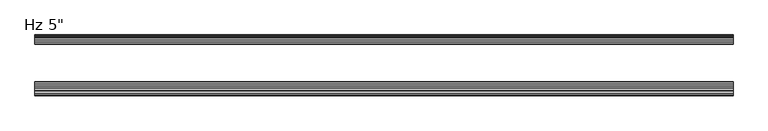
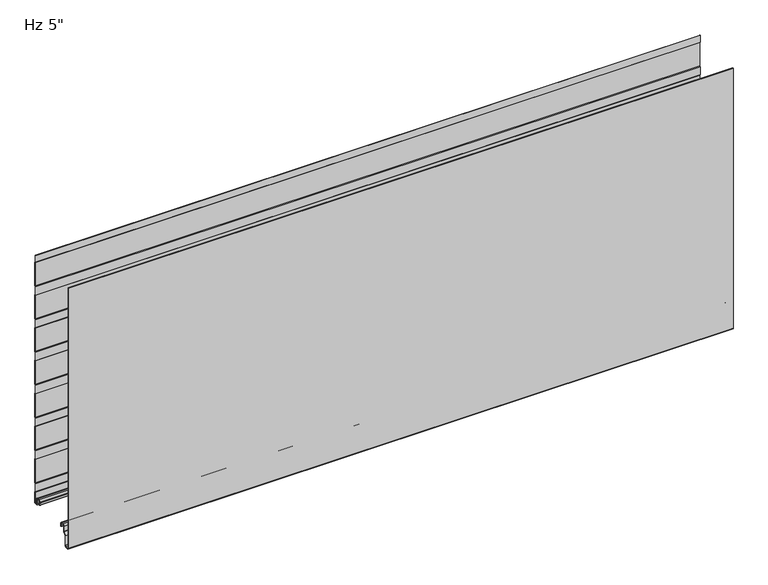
"""IFC4 building model written with IfcOpenShell, lengths in millimetres: plate geometry."""

from ifc_helpers import new_model, si_unit, point, frame, frame_2d, origin, place, context, project, spatial, polyline, circle_curve, trimmed, segment, composite_curve, outline, extrude, source, transform, mapped, element, save
from ifc_brep_helpers import plane_surface, cylinder_surface, revolved_surface, advanced_brep


def plate_da7b9e45(model_context):
    return source(origin(), model_context, "Body", "SolidModel", [
        extrude(outline(composite_curve([segment(trimmed(circle_curve(frame_2d((-123.4297491, -32.4521148)), 3.5702393), [point((-123.1184787, -36.0087592))], [point((-126.9999884, -32.4521125))], False, "CARTESIAN"), True, "CONTINUOUS"), segment(polyline([(-126.9999884, -32.4521125), (-126.9996024, 571.2), (-125.9993815, 571.2), (-125.9993815, -32.509446)]), True, "CONTINUOUS"), segment(trimmed(circle_curve(frame_2d((-123.4297816, -32.4521176)), 2.5702393), [point((-125.9993815, -32.509446))], [point((-123.205696, -35.0125699))], True, "CARTESIAN"), True, "CONTINUOUS"), segment(polyline([(-123.205696, -35.0125699), (-118.2238751, -34.5765709)]), True, "CONTINUOUS"), segment(trimmed(circle_curve(frame_2d((-118.7052657, -31.9198392)), 2.6999926), [point((-118.2238751, -34.5765709))], [point((-116.0052731, -31.9198392))], True, "CARTESIAN"), True, "CONTINUOUS"), segment(polyline([(-116.0052731, -31.9198392), (-116.0052731, -9.8247096), (-110.503202, -4.3226385)]), True, "CONTINUOUS"), segment(trimmed(circle_curve(frame_2d((-111.7052797, -3.1205608)), 1.6999946), [point((-110.503202, -4.3226385))], [point((-110.0052851, -3.1205608))], True, "CARTESIAN"), True, "CONTINUOUS"), segment(polyline([(-110.0052851, -3.1205608), (-110.0052851, 8.6903283)]), True, "CONTINUOUS"), segment(trimmed(circle_curve(frame_2d((-106.6552898, 8.6903283)), 3.3499953), [point((-110.0052851, 8.6903283))], [point((-106.6552898, 12.0403236))], False, "CARTESIAN"), True, "CONTINUOUS"), segment(polyline([(-106.6552898, 12.0403236), (-102.2552986, 12.0403236)]), True, "CONTINUOUS"), segment(trimmed(circle_curve(frame_2d((-102.2552986, 8.6903283)), 3.3499953), [point((-102.2552986, 12.0403236))], [point((-98.9053033, 8.6903283))], False, "CARTESIAN"), True, "CONTINUOUS"), segment(polyline([(-98.9053033, 8.6903283), (-98.9053033, 5.9912173), (-97.5068244, 5.9912173), (-97.5068244, 2.2328239)]), True, "CONTINUOUS"), segment(trimmed(circle_curve(frame_2d((-98.7068211, 2.2313092)), 1.1999976), [point((-97.5068244, 2.2328239))], [point((-98.6762992, 1.0316999))], False, "CARTESIAN"), True, "CONTINUOUS"), segment(trimmed(circle_curve(frame_2d((-98.7068211, 2.2313092)), 1.1999976), [point((-98.6762992, 1.0316999))], [point((-99.9053033, 2.1710221))], False, "CARTESIAN"), True, "CONTINUOUS"), segment(polyline([(-99.9053033, 2.1710221), (-99.9053033, 8.6903283)]), True, "CONTINUOUS"), segment(trimmed(circle_curve(frame_2d((-102.2552986, 8.6903283)), 2.3499953), [point((-99.9053033, 8.6903283))], [point((-102.2552986, 11.0403236))], True, "CARTESIAN"), True, "CONTINUOUS"), segment(polyline([(-102.2552986, 11.0403236), (-106.6552898, 11.0403236)]), True, "CONTINUOUS"), segment(trimmed(circle_curve(frame_2d((-106.6552898, 8.6903283)), 2.3499953), [point((-106.6552898, 11.0403236))], [point((-109.0052851, 8.6903283))], True, "CARTESIAN"), True, "CONTINUOUS"), segment(polyline([(-109.0052851, 8.6903283), (-109.0052851, -3.1205608)]), True, "CONTINUOUS"), segment(trimmed(circle_curve(frame_2d((-111.7052797, -3.1205608)), 2.6999946), [point((-109.0052851, -3.1205608))], [point((-109.7960952, -5.0297453))], False, "CARTESIAN"), True, "CONTINUOUS"), segment(polyline([(-109.7960952, -5.0297453), (-114.6245127, -9.8581627)]), True, "CONTINUOUS"), segment(trimmed(circle_curve(frame_2d((-113.7052757, -10.7773997)), 1.2999974), [point((-114.6245127, -9.8581627))], [point((-115.0052731, -10.7773997))], True, "CARTESIAN"), True, "CONTINUOUS"), segment(polyline([(-115.0052731, -10.7773997), (-115.0052731, -31.9198392)]), True, "CONTINUOUS"), segment(trimmed(circle_curve(frame_2d((-118.7052657, -31.9198392)), 3.6999926), [point((-115.0052731, -31.9198392))], [point((-118.0944646, -35.5690675))], False, "CARTESIAN"), True, "CONTINUOUS"), segment(polyline([(-118.0944646, -35.5690675), (-123.1184787, -36.0087592)]), True, "CONTINUOUS")], self_intersect=False)), frame((-730.0, 0.0, 0.0), z_axis=(1.0, 0.0, 0.0), x_axis=(0.0, 1.0, 0.0)), (0.0, 0.0, 1.0), 1460.0),
        advanced_brep(
        [(-730.0, -17.0015368, 2.0313088), (-730.0, -18.00154, 1.0313116), (-730.0, -19.0015314, 2.0313088), (-730.0, -19.0015314, 6.0315125), (-730.0, -18.0015368, 6.0315125), (-730.0, -18.0015368, 8.7237223), (-730.0, -14.7015411, 12.023718), (-730.0, -10.3015499, 12.023718), (-730.0, -7.0015544, 8.7237225), (-730.0, -7.0015544, -1.6962564), (-730.0, -5.2315602, -3.4662506), (-730.0, -1.0000126, -3.4662506), (-730.0, -1.0000126, 21.034026), (-730.0, -2.2002516, 22.4196686), (-730.0, -2.2002516, 41.7948349), (-730.0, -1.0000209, 43.1804679), (-730.0, -1.0000209, 97.2338833), (-730.0, -2.2002516, 98.6195162), (-730.0, -2.2002516, 117.9946825), (-730.0, -1.0000209, 119.3803155), (-730.0, -1.0000209, 173.4337309), (-730.0, -2.2002516, 174.8193638), (-730.0, -2.2002516, 194.1945301), (-730.0, -1.0000209, 195.5801631), (-730.0, -1.0000209, 249.6335785), (-730.0, -2.2002516, 251.0192114), (-730.0, -2.2002516, 270.3943777), (-730.0, -1.0000209, 271.7800107), (-730.0, -1.0000209, 325.8334261), (-730.0, -2.2002516, 327.219059), (-730.0, -2.2002516, 346.5942253), (-730.0, -1.0000209, 347.9798583), (-730.0, -1.0000209, 402.0332737), (-730.0, -2.2002516, 403.4189066), (-730.0, -2.2002516, 422.7940729), (-730.0, -1.0000209, 424.1797059), (-730.0, -1.0000209, 478.2331213), (-730.0, -2.2002516, 479.6187542), (-730.0, -2.2002516, 498.9939205), (-730.0, -1.0000209, 500.3795535), (-730.0, -1.0000209, 554.4329689), (-730.0, -2.2002516, 555.8186018), (-730.0, -2.2002516, 571.2), (-730.0, -1.2002516, 571.2), (-730.0, -1.2002516, 556.1914823), (-730.0, -0.3418094, 555.2004346), (-730.0, -2.09e-05, 554.2838177), (-730.0, -2.09e-05, 500.5287046), (-730.0, -0.3418094, 499.6120877), (-730.0, -1.2002516, 498.6210401), (-730.0, -1.2002516, 479.9916347), (-730.0, -0.3418094, 479.000587), (-730.0, -2.09e-05, 478.0839701), (-730.0, -2.09e-05, 424.328857), (-730.0, -0.3418094, 423.4122401), (-730.0, -1.2002516, 422.4211925), (-730.0, -1.2002516, 403.7917871), (-730.0, -0.3418094, 402.8007394), (-730.0, -2.09e-05, 401.8841225), (-730.0, -2.09e-05, 348.1290094), (-730.0, -0.3418094, 347.2123925), (-730.0, -1.2002516, 346.2213449), (-730.0, -1.2002516, 327.5919395), (-730.0, -0.3418094, 326.6008918), (-730.0, -2.09e-05, 325.6842749), (-730.0, -2.09e-05, 271.9291618), (-730.0, -0.3418094, 271.0125449), (-730.0, -1.2002516, 270.0214973), (-730.0, -1.2002516, 251.3920919), (-730.0, -0.3418094, 250.4010442), (-730.0, -2.09e-05, 249.4844273), (-730.0, -2.09e-05, 195.7293142), (-730.0, -0.3418094, 194.8126973), (-730.0, -1.2002516, 193.8216497), (-730.0, -1.2002516, 175.1922443), (-730.0, -0.3418094, 174.2011966), (-730.0, -2.09e-05, 173.2845797), (-730.0, -2.09e-05, 119.5294666), (-730.0, -0.3418094, 118.6128497), (-730.0, -1.2002516, 117.6218021), (-730.0, -1.2002516, 98.9923967), (-730.0, -0.3418094, 98.001349), (-730.0, -2.09e-05, 97.0847321), (-730.0, -2.09e-05, 43.329619), (-730.0, -0.3418094, 42.4130021), (-730.0, -1.2002516, 41.4219545), (-730.0, -1.2002516, 22.7925491), (-730.0, -0.3418094, 21.8015014), (-730.0, -2.09e-05, 20.8847931), (-730.0, -1.26e-05, -3.0662545), (-730.0, -1.4000087, -4.4662506), (-730.0, -5.2315602, -4.4662506), (-730.0, -8.0015544, -1.6962564), (-730.0, -8.0015544, 8.7237225), (-730.0, -10.3015499, 11.023718), (-730.0, -14.7015411, 11.023718), (-730.0, -17.0015368, 8.7237223), (730.0, -17.0015368, 2.0313088), (730.0, -17.0015368, 8.7237223), (730.0, -14.7015411, 11.023718), (730.0, -10.3015499, 11.023718), (730.0, -8.0015544, 8.7237225), (730.0, -8.0015544, -1.6962564), (730.0, -5.2315602, -4.4662506), (730.0, -1.4000087, -4.4662506), (730.0, -1.26e-05, -3.0662545), (730.0, -1.26e-05, 20.8848845), (730.0, -0.3418094, 21.8015014), (730.0, -1.2002516, 22.7925491), (730.0, -1.2002516, 41.4219545), (730.0, -0.3418094, 42.4130021), (730.0, -2.09e-05, 43.329619), (730.0, -2.09e-05, 97.0847321), (730.0, -0.3418094, 98.001349), (730.0, -1.2002516, 98.9923967), (730.0, -1.2002516, 117.6218021), (730.0, -0.3418094, 118.6128497), (730.0, -2.09e-05, 119.5294666), (730.0, -2.09e-05, 173.2845797), (730.0, -0.3418094, 174.2011966), (730.0, -1.2002516, 175.1922443), (730.0, -1.2002516, 193.8216497), (730.0, -0.3418094, 194.8126973), (730.0, -2.09e-05, 195.7293142), (730.0, -2.09e-05, 249.4844273), (730.0, -0.3418094, 250.4010442), (730.0, -1.2002516, 251.3920919), (730.0, -1.2002516, 270.0214973), (730.0, -0.3418094, 271.0125449), (730.0, -2.09e-05, 271.9291618), (730.0, -2.09e-05, 325.6842749), (730.0, -0.3418094, 326.6008918), (730.0, -1.2002516, 327.5919395), (730.0, -1.2002516, 346.2213449), (730.0, -0.3418094, 347.2123925), (730.0, -2.09e-05, 348.1290094), (730.0, -2.09e-05, 401.8841225), (730.0, -0.3418094, 402.8007394), (730.0, -1.2002516, 403.7917871), (730.0, -1.2002516, 422.4211925), (730.0, -0.3418094, 423.4122401), (730.0, -2.09e-05, 424.328857), (730.0, -2.09e-05, 478.0839701), (730.0, -0.3418094, 479.000587), (730.0, -1.2002516, 479.9916347), (730.0, -1.2002516, 498.6210401), (730.0, -0.3418094, 499.6120877), (730.0, -2.09e-05, 500.5287046), (730.0, -2.09e-05, 554.2838177), (730.0, -0.3418094, 555.2004346), (730.0, -1.2002516, 556.1914823), (730.0, -1.2002516, 571.2), (730.0, -2.2002516, 571.2), (730.0, -2.2002516, 555.8186018), (730.0, -1.0000209, 554.4329689), (730.0, -1.0000209, 500.3795535), (730.0, -2.2002516, 498.9939205), (730.0, -2.2002516, 479.6187542), (730.0, -1.0000209, 478.2331213), (730.0, -1.0000209, 424.1797059), (730.0, -2.2002516, 422.7940729), (730.0, -2.2002516, 403.4189066), (730.0, -1.0000209, 402.0332737), (730.0, -1.0000209, 347.9798583), (730.0, -2.2002516, 346.5942253), (730.0, -2.2002516, 327.219059), (730.0, -1.0000209, 325.8334261), (730.0, -1.0000209, 271.7800107), (730.0, -2.2002516, 270.3943777), (730.0, -2.2002516, 251.0192114), (730.0, -1.0000209, 249.6335785), (730.0, -1.0000209, 195.5801631), (730.0, -2.2002516, 194.1945301), (730.0, -2.2002516, 174.8193638), (730.0, -1.0000209, 173.4337309), (730.0, -1.0000209, 119.3803155), (730.0, -2.2002516, 117.9946825), (730.0, -2.2002516, 98.6195162), (730.0, -1.0000209, 97.2338833), (730.0, -1.0000209, 43.1804679), (730.0, -2.2002516, 41.7948349), (730.0, -2.2002516, 22.4196686), (730.0, -1.0000126, 21.034026), (730.0, -1.0000126, -3.4662506), (730.0, -5.2315602, -3.4662506), (730.0, -7.0015544, -1.6962564), (730.0, -7.0015544, 8.7237225), (730.0, -10.3015499, 12.023718), (730.0, -14.7015411, 12.023718), (730.0, -18.0015368, 8.7237223), (730.0, -18.0015368, 6.0315125), (730.0, -19.0015314, 6.0315125), (730.0, -19.0015314, 2.0313088), (730.0, -18.0015401, 1.0313116)],
        [
            (0, 1, circle_curve(frame((-730.0, -18.0015341, 2.0313088), z_axis=(-1.0, 0.0, 0.0), x_axis=(0.0, 0.0, 1.0)), 0.9999973)),
            (1, 2, circle_curve(frame((-730.0, -18.0015342, 2.0313088), z_axis=(-1.0, 0.0, 0.0), x_axis=(0.0, 0.0, 1.0)), 0.9999972)),
            (2, 3),
            (3, 4),
            (4, 5),
            (5, 6, circle_curve(frame((-730.0, -14.7015411, 8.7237223), z_axis=(-1.0, 0.0, 0.0), x_axis=(0.0, 0.0, 1.0)), 3.2999957)),
            (6, 7),
            (7, 8, circle_curve(frame((-730.0, -10.3015499, 8.7237225), z_axis=(-1.0, 0.0, 0.0), x_axis=(0.0, 0.0, 1.0)), 3.2999955)),
            (8, 9),
            (9, 10, circle_curve(frame((-730.0, -5.2315602, -1.6962564), z_axis=(1.0, 0.0, 0.0), x_axis=(0.0, 0.0, 1.0)), 1.7699942)),
            (10, 11),
            (11, 12),
            (12, 13),
            (13, 14),
            (14, 15),
            (15, 16),
            (16, 17),
            (17, 18),
            (18, 19),
            (19, 20),
            (20, 21),
            (21, 22),
            (22, 23),
            (23, 24),
            (24, 25),
            (25, 26),
            (26, 27),
            (27, 28),
            (28, 29),
            (29, 30),
            (30, 31),
            (31, 32),
            (32, 33),
            (33, 34),
            (34, 35),
            (35, 36),
            (36, 37),
            (37, 38),
            (38, 39),
            (39, 40),
            (40, 41),
            (41, 42),
            (42, 43),
            (43, 44),
            (44, 45),
            (45, 46, circle_curve(frame((-730.0, -1.4000181, 554.2838177), z_axis=(-1.0, 0.0, 0.0), x_axis=(0.0, 0.0, 1.0)), 1.3999972)),
            (46, 47),
            (47, 48, circle_curve(frame((-730.0, -1.4000181, 500.5287046), z_axis=(-1.0, 0.0, 0.0), x_axis=(0.0, 0.0, 1.0)), 1.3999972)),
            (48, 49),
            (49, 50),
            (50, 51),
            (51, 52, circle_curve(frame((-730.0, -1.4000181, 478.0839701), z_axis=(-1.0, 0.0, 0.0), x_axis=(0.0, 0.0, 1.0)), 1.3999972)),
            (52, 53),
            (53, 54, circle_curve(frame((-730.0, -1.4000181, 424.328857), z_axis=(-1.0, 0.0, 0.0), x_axis=(0.0, 0.0, 1.0)), 1.3999972)),
            (54, 55),
            (55, 56),
            (56, 57),
            (57, 58, circle_curve(frame((-730.0, -1.4000181, 401.8841225), z_axis=(-1.0, 0.0, 0.0), x_axis=(0.0, 0.0, 1.0)), 1.3999972)),
            (58, 59),
            (59, 60, circle_curve(frame((-730.0, -1.4000181, 348.1290094), z_axis=(-1.0, 0.0, 0.0), x_axis=(0.0, 0.0, 1.0)), 1.3999972)),
            (60, 61),
            (61, 62),
            (62, 63),
            (63, 64, circle_curve(frame((-730.0, -1.4000181, 325.6842749), z_axis=(-1.0, 0.0, 0.0), x_axis=(0.0, 0.0, 1.0)), 1.3999972)),
            (64, 65),
            (65, 66, circle_curve(frame((-730.0, -1.4000181, 271.9291618), z_axis=(-1.0, 0.0, 0.0), x_axis=(0.0, 0.0, 1.0)), 1.3999972)),
            (66, 67),
            (67, 68),
            (68, 69),
            (69, 70, circle_curve(frame((-730.0, -1.4000181, 249.4844273), z_axis=(-1.0, 0.0, 0.0), x_axis=(0.0, 0.0, 1.0)), 1.3999972)),
            (70, 71),
            (71, 72, circle_curve(frame((-730.0, -1.4000181, 195.7293142), z_axis=(-1.0, 0.0, 0.0), x_axis=(0.0, 0.0, 1.0)), 1.3999972)),
            (72, 73),
            (73, 74),
            (74, 75),
            (75, 76, circle_curve(frame((-730.0, -1.4000181, 173.2845797), z_axis=(-1.0, 0.0, 0.0), x_axis=(0.0, 0.0, 1.0)), 1.3999972)),
            (76, 77),
            (77, 78, circle_curve(frame((-730.0, -1.4000181, 119.5294666), z_axis=(-1.0, 0.0, 0.0), x_axis=(0.0, 0.0, 1.0)), 1.3999972)),
            (78, 79),
            (79, 80),
            (80, 81),
            (81, 82, circle_curve(frame((-730.0, -1.4000181, 97.0847321), z_axis=(-1.0, 0.0, 0.0), x_axis=(0.0, 0.0, 1.0)), 1.3999972)),
            (82, 83),
            (83, 84, circle_curve(frame((-730.0, -1.4000181, 43.329619), z_axis=(-1.0, 0.0, 0.0), x_axis=(0.0, 0.0, 1.0)), 1.3999972)),
            (84, 85),
            (85, 86),
            (86, 87),
            (87, 88, circle_curve(frame((-730.0, -1.4000181, 20.8848845), z_axis=(-1.0, 0.0, 0.0), x_axis=(0.0, 0.0, 1.0)), 1.3999972)),
            (88, 89),
            (89, 90, circle_curve(frame((-730.0, -1.4000087, -3.0662545), z_axis=(-1.0, 0.0, 0.0), x_axis=(0.0, 0.0, 1.0)), 1.3999962)),
            (90, 91),
            (91, 92, circle_curve(frame((-730.0, -5.2315602, -1.6962564), z_axis=(-1.0, 0.0, 0.0), x_axis=(0.0, 0.0, 1.0)), 2.7699942)),
            (92, 93),
            (93, 94, circle_curve(frame((-730.0, -10.3015499, 8.7237225), z_axis=(1.0, 0.0, 0.0), x_axis=(0.0, 0.0, 1.0)), 2.2999955)),
            (94, 95),
            (95, 96, circle_curve(frame((-730.0, -14.7015411, 8.7237223), z_axis=(1.0, 0.0, 0.0), x_axis=(0.0, 0.0, 1.0)), 2.2999957)),
            (96, 0),
            (97, 98),
            (98, 99, circle_curve(frame((730.0, -14.7015411, 8.7237223), z_axis=(-1.0, 0.0, 0.0), x_axis=(0.0, 0.0, 1.0)), 2.2999957)),
            (99, 100),
            (100, 101, circle_curve(frame((730.0, -10.3015499, 8.7237225), z_axis=(-1.0, 0.0, 0.0), x_axis=(0.0, 0.0, 1.0)), 2.2999955)),
            (101, 102),
            (102, 103, circle_curve(frame((730.0, -5.2315602, -1.6962564), z_axis=(1.0, 0.0, 0.0), x_axis=(0.0, 0.0, 1.0)), 2.7699942)),
            (103, 104),
            (104, 105, circle_curve(frame((730.0, -1.4000087, -3.0662545), z_axis=(1.0, 0.0, 0.0), x_axis=(0.0, 0.0, 1.0)), 1.3999962)),
            (105, 106),
            (106, 107, circle_curve(frame((730.0, -1.4000181, 20.8848845), z_axis=(1.0, 0.0, 0.0), x_axis=(0.0, 0.0, 1.0)), 1.3999972)),
            (107, 108),
            (108, 109),
            (109, 110),
            (110, 111, circle_curve(frame((730.0, -1.4000181, 43.329619), z_axis=(1.0, 0.0, 0.0), x_axis=(0.0, 0.0, 1.0)), 1.3999972)),
            (111, 112),
            (112, 113, circle_curve(frame((730.0, -1.4000181, 97.0847321), z_axis=(1.0, 0.0, 0.0), x_axis=(0.0, 0.0, 1.0)), 1.3999972)),
            (113, 114),
            (114, 115),
            (115, 116),
            (116, 117, circle_curve(frame((730.0, -1.4000181, 119.5294666), z_axis=(1.0, 0.0, 0.0), x_axis=(0.0, 0.0, 1.0)), 1.3999972)),
            (117, 118),
            (118, 119, circle_curve(frame((730.0, -1.4000181, 173.2845797), z_axis=(1.0, 0.0, 0.0), x_axis=(0.0, 0.0, 1.0)), 1.3999972)),
            (119, 120),
            (120, 121),
            (121, 122),
            (122, 123, circle_curve(frame((730.0, -1.4000181, 195.7293142), z_axis=(1.0, 0.0, 0.0), x_axis=(0.0, 0.0, 1.0)), 1.3999972)),
            (123, 124),
            (124, 125, circle_curve(frame((730.0, -1.4000181, 249.4844273), z_axis=(1.0, 0.0, 0.0), x_axis=(0.0, 0.0, 1.0)), 1.3999972)),
            (125, 126),
            (126, 127),
            (127, 128),
            (128, 129, circle_curve(frame((730.0, -1.4000181, 271.9291618), z_axis=(1.0, 0.0, 0.0), x_axis=(0.0, 0.0, 1.0)), 1.3999972)),
            (129, 130),
            (130, 131, circle_curve(frame((730.0, -1.4000181, 325.6842749), z_axis=(1.0, 0.0, 0.0), x_axis=(0.0, 0.0, 1.0)), 1.3999972)),
            (131, 132),
            (132, 133),
            (133, 134),
            (134, 135, circle_curve(frame((730.0, -1.4000181, 348.1290094), z_axis=(1.0, 0.0, 0.0), x_axis=(0.0, 0.0, 1.0)), 1.3999972)),
            (135, 136),
            (136, 137, circle_curve(frame((730.0, -1.4000181, 401.8841225), z_axis=(1.0, 0.0, 0.0), x_axis=(0.0, 0.0, 1.0)), 1.3999972)),
            (137, 138),
            (138, 139),
            (139, 140),
            (140, 141, circle_curve(frame((730.0, -1.4000181, 424.328857), z_axis=(1.0, 0.0, 0.0), x_axis=(0.0, 0.0, 1.0)), 1.3999972)),
            (141, 142),
            (142, 143, circle_curve(frame((730.0, -1.4000181, 478.0839701), z_axis=(1.0, 0.0, 0.0), x_axis=(0.0, 0.0, 1.0)), 1.3999972)),
            (143, 144),
            (144, 145),
            (145, 146),
            (146, 147, circle_curve(frame((730.0, -1.4000181, 500.5287046), z_axis=(1.0, 0.0, 0.0), x_axis=(0.0, 0.0, 1.0)), 1.3999972)),
            (147, 148),
            (148, 149, circle_curve(frame((730.0, -1.4000181, 554.2838177), z_axis=(1.0, 0.0, 0.0), x_axis=(0.0, 0.0, 1.0)), 1.3999972)),
            (149, 150),
            (150, 151),
            (151, 152),
            (152, 153),
            (153, 154),
            (154, 155),
            (155, 156),
            (156, 157),
            (157, 158),
            (158, 159),
            (159, 160),
            (160, 161),
            (161, 162),
            (162, 163),
            (163, 164),
            (164, 165),
            (165, 166),
            (166, 167),
            (167, 168),
            (168, 169),
            (169, 170),
            (170, 171),
            (171, 172),
            (172, 173),
            (173, 174),
            (174, 175),
            (175, 176),
            (176, 177),
            (177, 178),
            (178, 179),
            (179, 180),
            (180, 181),
            (181, 182),
            (182, 183),
            (183, 184),
            (184, 185, circle_curve(frame((730.0, -5.2315602, -1.6962564), z_axis=(-1.0, 0.0, 0.0), x_axis=(0.0, 0.0, 1.0)), 1.7699942)),
            (185, 186),
            (186, 187, circle_curve(frame((730.0, -10.3015499, 8.7237225), z_axis=(1.0, 0.0, 0.0), x_axis=(0.0, 0.0, 1.0)), 3.2999955)),
            (187, 188),
            (188, 189, circle_curve(frame((730.0, -14.7015411, 8.7237223), z_axis=(1.0, 0.0, 0.0), x_axis=(0.0, 0.0, 1.0)), 3.2999957)),
            (189, 190),
            (190, 191),
            (191, 192),
            (192, 193, circle_curve(frame((730.0, -18.0015342, 2.0313088), z_axis=(1.0, 0.0, 0.0), x_axis=(0.0, 0.0, 1.0)), 0.9999972)),
            (193, 97, circle_curve(frame((730.0, -18.0015341, 2.0313088), z_axis=(1.0, 0.0, 0.0), x_axis=(0.0, 0.0, 1.0)), 0.9999973)),
            (42, 152),
            (151, 43),
            (96, 98),
            (97, 0),
            (95, 99),
            (94, 100),
            (93, 101),
            (92, 102),
            (91, 103),
            (90, 104),
            (89, 105),
            (88, 106),
            (87, 107),
            (86, 108),
            (85, 109),
            (84, 110),
            (83, 111),
            (82, 112),
            (81, 113),
            (80, 114),
            (79, 115),
            (78, 116),
            (77, 117),
            (76, 118),
            (75, 119),
            (74, 120),
            (73, 121),
            (72, 122),
            (71, 123),
            (70, 124),
            (69, 125),
            (68, 126),
            (67, 127),
            (66, 128),
            (65, 129),
            (64, 130),
            (63, 131),
            (62, 132),
            (61, 133),
            (60, 134),
            (59, 135),
            (58, 136),
            (57, 137),
            (56, 138),
            (55, 139),
            (54, 140),
            (53, 141),
            (52, 142),
            (51, 143),
            (50, 144),
            (49, 145),
            (48, 146),
            (47, 147),
            (46, 148),
            (45, 149),
            (44, 150),
            (41, 153),
            (40, 154),
            (39, 155),
            (38, 156),
            (37, 157),
            (36, 158),
            (35, 159),
            (34, 160),
            (33, 161),
            (32, 162),
            (31, 163),
            (30, 164),
            (29, 165),
            (28, 166),
            (27, 167),
            (26, 168),
            (25, 169),
            (24, 170),
            (23, 171),
            (22, 172),
            (21, 173),
            (20, 174),
            (19, 175),
            (18, 176),
            (17, 177),
            (16, 178),
            (15, 179),
            (14, 180),
            (13, 181),
            (12, 182),
            (11, 183),
            (10, 184),
            (9, 185),
            (8, 186),
            (7, 187),
            (6, 188),
            (5, 189),
            (4, 190),
            (3, 191),
            (2, 192),
            (1, 193),
        ],
        [
            plane_surface(frame((-730.0, -2.09e-05, 457.2), z_axis=(-1.0, 0.0, 0.0), x_axis=(0.0, 1.0, 0.0))),
            plane_surface(frame((730.0, -2.09e-05, 457.2), z_axis=(1.0, 0.0, 0.0), x_axis=(0.0, 1.0, 0.0))),
            plane_surface(frame((730.0, 9.9999791, 571.2), z_axis=(0.0, 0.0, 1.0), x_axis=(-1.0, 0.0, 0.0))),
            plane_surface(frame((-730.0, -17.0015368, 2.0313088), z_axis=(0.0, 1.0, 0.0), x_axis=(1.0, 0.0, 0.0))),
            revolved_surface(polyline([(730.0, -14.7015411, 11.023718), (-730.0, -14.7015411, 11.023718)]), (-730.0, -14.7015411, 8.7237223), (1.0, 0.0, 0.0)),
            plane_surface(frame((-730.0, -14.7015411, 11.023718), z_axis=(0.0, 0.0, -1.0), x_axis=(1.0, 0.0, 0.0))),
            revolved_surface(polyline([(730.0, -10.3015499, 11.023717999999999), (-730.0, -10.3015499, 11.023717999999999)]), (-730.0, -10.3015499, 8.7237225), (1.0, 0.0, 0.0)),
            plane_surface(frame((-730.0, -8.0015544, 8.7237225), z_axis=(0.0, -1.0, 0.0), x_axis=(1.0, 0.0, 0.0))),
            cylinder_surface(frame((-730.0, -5.2315602, -1.6962564), z_axis=(-1.0, 0.0, 0.0), x_axis=(0.0, 0.0, 1.0)), 2.7699942),
            plane_surface(frame((-730.0, -5.2315602, -4.4662506), z_axis=(0.0, 0.0, -1.0), x_axis=(1.0, 0.0, 0.0))),
            cylinder_surface(frame((-730.0, -1.4000087, -3.0662545), z_axis=(-1.0, 0.0, 0.0), x_axis=(0.0, 0.0, 1.0)), 1.3999962),
            plane_surface(frame((-730.0, -1.26e-05, -3.0662545), z_axis=(0.0, 1.0, 0.0), x_axis=(1.0, 0.0, 0.0))),
            cylinder_surface(frame((-730.0, -1.4000181, 20.8848845), z_axis=(-1.0, 0.0, 0.0), x_axis=(0.0, 0.0, 1.0)), 1.3999972),
            plane_surface(frame((-730.0, -0.3418094, 21.8015014), z_axis=(0.0, 0.755864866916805, 0.6547276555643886), x_axis=(1.0, 0.0, 0.0))),
            plane_surface(frame((-730.0, -1.2002516, 32.1072518), z_axis=(0.0, 1.0, 0.0), x_axis=(1.0, 0.0, 0.0))),
            plane_surface(frame((-730.0, -1.2002516, 41.4219545), z_axis=(0.0, 0.755864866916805, -0.6547276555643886), x_axis=(1.0, 0.0, 0.0))),
            cylinder_surface(frame((-730.0, -1.4000181, 43.329619), z_axis=(-1.0, 0.0, 0.0), x_axis=(0.0, 0.0, 1.0)), 1.3999972),
            plane_surface(frame((-730.0, -2.09e-05, 43.329619), z_axis=(0.0, 1.0, 0.0), x_axis=(1.0, 0.0, 0.0))),
            cylinder_surface(frame((-730.0, -1.4000181, 97.0847321), z_axis=(-1.0, 0.0, 0.0), x_axis=(0.0, 0.0, 1.0)), 1.3999972),
            plane_surface(frame((-730.0, -0.3418094, 98.001349), z_axis=(0.0, 0.755864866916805, 0.6547276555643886), x_axis=(1.0, 0.0, 0.0))),
            plane_surface(frame((-730.0, -1.2002516, 108.3070994), z_axis=(0.0, 1.0, 0.0), x_axis=(1.0, 0.0, 0.0))),
            plane_surface(frame((-730.0, -1.2002516, 117.6218021), z_axis=(0.0, 0.755864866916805, -0.6547276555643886), x_axis=(1.0, 0.0, 0.0))),
            cylinder_surface(frame((-730.0, -1.4000181, 119.5294666), z_axis=(-1.0, 0.0, 0.0), x_axis=(0.0, 0.0, 1.0)), 1.3999972),
            plane_surface(frame((-730.0, -2.09e-05, 119.5294666), z_axis=(0.0, 1.0, 0.0), x_axis=(1.0, 0.0, 0.0))),
            cylinder_surface(frame((-730.0, -1.4000181, 173.2845797), z_axis=(-1.0, 0.0, 0.0), x_axis=(0.0, 0.0, 1.0)), 1.3999972),
            plane_surface(frame((-730.0, -0.3418094, 174.2011966), z_axis=(0.0, 0.755864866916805, 0.6547276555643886), x_axis=(1.0, 0.0, 0.0))),
            plane_surface(frame((-730.0, -1.2002516, 184.506947), z_axis=(0.0, 1.0, 0.0), x_axis=(1.0, 0.0, 0.0))),
            plane_surface(frame((-730.0, -1.2002516, 193.8216497), z_axis=(0.0, 0.755864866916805, -0.6547276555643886), x_axis=(1.0, 0.0, 0.0))),
            cylinder_surface(frame((-730.0, -1.4000181, 195.7293142), z_axis=(-1.0, 0.0, 0.0), x_axis=(0.0, 0.0, 1.0)), 1.3999972),
            plane_surface(frame((-730.0, -2.09e-05, 195.7293142), z_axis=(0.0, 1.0, 0.0), x_axis=(1.0, 0.0, 0.0))),
            cylinder_surface(frame((-730.0, -1.4000181, 249.4844273), z_axis=(-1.0, 0.0, 0.0), x_axis=(0.0, 0.0, 1.0)), 1.3999972),
            plane_surface(frame((-730.0, -0.3418094, 250.4010442), z_axis=(0.0, 0.755864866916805, 0.6547276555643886), x_axis=(1.0, 0.0, 0.0))),
            plane_surface(frame((-730.0, -1.2002516, 260.7067946), z_axis=(0.0, 1.0, 0.0), x_axis=(1.0, 0.0, 0.0))),
            plane_surface(frame((-730.0, -1.2002516, 270.0214973), z_axis=(0.0, 0.755864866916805, -0.6547276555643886), x_axis=(1.0, 0.0, 0.0))),
            cylinder_surface(frame((-730.0, -1.4000181, 271.9291618), z_axis=(-1.0, 0.0, 0.0), x_axis=(0.0, 0.0, 1.0)), 1.3999972),
            plane_surface(frame((-730.0, -2.09e-05, 271.9291618), z_axis=(0.0, 1.0, 0.0), x_axis=(1.0, 0.0, 0.0))),
            cylinder_surface(frame((-730.0, -1.4000181, 325.6842749), z_axis=(-1.0, 0.0, 0.0), x_axis=(0.0, 0.0, 1.0)), 1.3999972),
            plane_surface(frame((-730.0, -0.3418094, 326.6008918), z_axis=(0.0, 0.755864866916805, 0.6547276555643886), x_axis=(1.0, 0.0, 0.0))),
            plane_surface(frame((-730.0, -1.2002516, 336.9066422), z_axis=(0.0, 1.0, 0.0), x_axis=(1.0, 0.0, 0.0))),
            plane_surface(frame((-730.0, -1.2002516, 346.2213449), z_axis=(0.0, 0.755864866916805, -0.6547276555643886), x_axis=(1.0, 0.0, 0.0))),
            cylinder_surface(frame((-730.0, -1.4000181, 348.1290094), z_axis=(-1.0, 0.0, 0.0), x_axis=(0.0, 0.0, 1.0)), 1.3999972),
            plane_surface(frame((-730.0, -2.09e-05, 348.1290094), z_axis=(0.0, 1.0, 0.0), x_axis=(1.0, 0.0, 0.0))),
            cylinder_surface(frame((-730.0, -1.4000181, 401.8841225), z_axis=(-1.0, 0.0, 0.0), x_axis=(0.0, 0.0, 1.0)), 1.3999972),
            plane_surface(frame((-730.0, -0.3418094, 402.8007394), z_axis=(0.0, 0.755864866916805, 0.6547276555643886), x_axis=(1.0, 0.0, 0.0))),
            plane_surface(frame((-730.0, -1.2002516, 413.1064898), z_axis=(0.0, 1.0, 0.0), x_axis=(1.0, 0.0, 0.0))),
            plane_surface(frame((-730.0, -1.2002516, 422.4211925), z_axis=(0.0, 0.755864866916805, -0.6547276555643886), x_axis=(1.0, 0.0, 0.0))),
            cylinder_surface(frame((-730.0, -1.4000181, 424.328857), z_axis=(-1.0, 0.0, 0.0), x_axis=(0.0, 0.0, 1.0)), 1.3999972),
            plane_surface(frame((-730.0, -2.09e-05, 424.328857), z_axis=(0.0, 1.0, 0.0), x_axis=(1.0, 0.0, 0.0))),
            cylinder_surface(frame((-730.0, -1.4000181, 478.0839701), z_axis=(-1.0, 0.0, 0.0), x_axis=(0.0, 0.0, 1.0)), 1.3999972),
            plane_surface(frame((-730.0, -0.3418094, 479.000587), z_axis=(0.0, 0.755864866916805, 0.6547276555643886), x_axis=(1.0, 0.0, 0.0))),
            plane_surface(frame((-730.0, -1.2002516, 489.3063374), z_axis=(0.0, 1.0, 0.0), x_axis=(1.0, 0.0, 0.0))),
            plane_surface(frame((-730.0, -1.2002516, 498.6210401), z_axis=(0.0, 0.755864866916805, -0.6547276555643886), x_axis=(1.0, 0.0, 0.0))),
            cylinder_surface(frame((-730.0, -1.4000181, 500.5287046), z_axis=(-1.0, 0.0, 0.0), x_axis=(0.0, 0.0, 1.0)), 1.3999972),
            plane_surface(frame((-730.0, -2.09e-05, 500.5287046), z_axis=(0.0, 1.0, 0.0), x_axis=(1.0, 0.0, 0.0))),
            cylinder_surface(frame((-730.0, -1.4000181, 554.2838177), z_axis=(-1.0, 0.0, 0.0), x_axis=(0.0, 0.0, 1.0)), 1.3999972),
            plane_surface(frame((-730.0, -0.3418094, 555.2004346), z_axis=(0.0, 0.755864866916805, 0.6547276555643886), x_axis=(1.0, 0.0, 0.0))),
            plane_surface(frame((-730.0, -1.2002516, 565.506185), z_axis=(0.0, 1.0, 0.0), x_axis=(1.0, 0.0, 0.0))),
            plane_surface(frame((-730.0, -2.2002516, 575.1937681), z_axis=(0.0, -1.0, 0.0), x_axis=(1.0, 0.0, 0.0))),
            plane_surface(frame((-730.0, -2.2002516, 555.8186018), z_axis=(0.0, -0.755864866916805, -0.6547276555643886), x_axis=(1.0, 0.0, 0.0))),
            plane_surface(frame((-730.0, -1.0000209, 554.4329689), z_axis=(0.0, -1.0, 0.0), x_axis=(1.0, 0.0, 0.0))),
            plane_surface(frame((-730.0, -1.0000209, 500.3795535), z_axis=(0.0, -0.755864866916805, 0.6547276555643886), x_axis=(1.0, 0.0, 0.0))),
            plane_surface(frame((-730.0, -2.2002516, 498.9939205), z_axis=(0.0, -1.0, 0.0), x_axis=(1.0, 0.0, 0.0))),
            plane_surface(frame((-730.0, -2.2002516, 479.6187542), z_axis=(0.0, -0.755864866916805, -0.6547276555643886), x_axis=(1.0, 0.0, 0.0))),
            plane_surface(frame((-730.0, -1.0000209, 478.2331213), z_axis=(0.0, -1.0, 0.0), x_axis=(1.0, 0.0, 0.0))),
            plane_surface(frame((-730.0, -1.0000209, 424.1797059), z_axis=(0.0, -0.755864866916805, 0.6547276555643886), x_axis=(1.0, 0.0, 0.0))),
            plane_surface(frame((-730.0, -2.2002516, 422.7940729), z_axis=(0.0, -1.0, 0.0), x_axis=(1.0, 0.0, 0.0))),
            plane_surface(frame((-730.0, -2.2002516, 403.4189066), z_axis=(0.0, -0.755864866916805, -0.6547276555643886), x_axis=(1.0, 0.0, 0.0))),
            plane_surface(frame((-730.0, -1.0000209, 402.0332737), z_axis=(0.0, -1.0, 0.0), x_axis=(1.0, 0.0, 0.0))),
            plane_surface(frame((-730.0, -1.0000209, 347.9798583), z_axis=(0.0, -0.755864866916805, 0.6547276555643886), x_axis=(1.0, 0.0, 0.0))),
            plane_surface(frame((-730.0, -2.2002516, 346.5942253), z_axis=(0.0, -1.0, 0.0), x_axis=(1.0, 0.0, 0.0))),
            plane_surface(frame((-730.0, -2.2002516, 327.219059), z_axis=(0.0, -0.755864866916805, -0.6547276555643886), x_axis=(1.0, 0.0, 0.0))),
            plane_surface(frame((-730.0, -1.0000209, 325.8334261), z_axis=(0.0, -1.0, 0.0), x_axis=(1.0, 0.0, 0.0))),
            plane_surface(frame((-730.0, -1.0000209, 271.7800107), z_axis=(0.0, -0.755864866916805, 0.6547276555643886), x_axis=(1.0, 0.0, 0.0))),
            plane_surface(frame((-730.0, -2.2002516, 270.3943777), z_axis=(0.0, -1.0, 0.0), x_axis=(1.0, 0.0, 0.0))),
            plane_surface(frame((-730.0, -2.2002516, 251.0192114), z_axis=(0.0, -0.755864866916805, -0.6547276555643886), x_axis=(1.0, 0.0, 0.0))),
            plane_surface(frame((-730.0, -1.0000209, 249.6335785), z_axis=(0.0, -1.0, 0.0), x_axis=(1.0, 0.0, 0.0))),
            plane_surface(frame((-730.0, -1.0000209, 195.5801631), z_axis=(0.0, -0.755864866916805, 0.6547276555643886), x_axis=(1.0, 0.0, 0.0))),
            plane_surface(frame((-730.0, -2.2002516, 194.1945301), z_axis=(0.0, -1.0, 0.0), x_axis=(1.0, 0.0, 0.0))),
            plane_surface(frame((-730.0, -2.2002516, 174.8193638), z_axis=(0.0, -0.755864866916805, -0.6547276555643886), x_axis=(1.0, 0.0, 0.0))),
            plane_surface(frame((-730.0, -1.0000209, 173.4337309), z_axis=(0.0, -1.0, 0.0), x_axis=(1.0, 0.0, 0.0))),
            plane_surface(frame((-730.0, -1.0000209, 119.3803155), z_axis=(0.0, -0.755864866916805, 0.6547276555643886), x_axis=(1.0, 0.0, 0.0))),
            plane_surface(frame((-730.0, -2.2002516, 117.9946825), z_axis=(0.0, -1.0, 0.0), x_axis=(1.0, 0.0, 0.0))),
            plane_surface(frame((-730.0, -2.2002516, 98.6195162), z_axis=(0.0, -0.755864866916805, -0.6547276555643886), x_axis=(1.0, 0.0, 0.0))),
            plane_surface(frame((-730.0, -1.0000209, 97.2338833), z_axis=(0.0, -1.0, 0.0), x_axis=(1.0, 0.0, 0.0))),
            plane_surface(frame((-730.0, -1.0000209, 43.1804679), z_axis=(0.0, -0.755864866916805, 0.6547276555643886), x_axis=(1.0, 0.0, 0.0))),
            plane_surface(frame((-730.0, -2.2002516, 41.7948349), z_axis=(0.0, -1.0, 0.0), x_axis=(1.0, 0.0, 0.0))),
            plane_surface(frame((-730.0, -2.2002516, 22.4196686), z_axis=(0.0, -0.755864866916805, -0.6547276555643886), x_axis=(1.0, 0.0, 0.0))),
            plane_surface(frame((-730.0, -1.0000126, 21.034026), z_axis=(0.0, -1.0, 0.0), x_axis=(1.0, 0.0, 0.0))),
            plane_surface(frame((-730.0, -1.0000126, -3.4662506), z_axis=(0.0, 0.0, 1.0), x_axis=(1.0, 0.0, 0.0))),
            revolved_surface(polyline([(730.0, -5.2315602, 0.07373779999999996), (-730.0, -5.2315602, 0.07373779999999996)]), (-730.0, -5.2315602, -1.6962564), (1.0, 0.0, 0.0)),
            plane_surface(frame((-730.0, -7.0015544, -1.6962564), z_axis=(0.0, 1.0, 0.0), x_axis=(1.0, 0.0, 0.0))),
            cylinder_surface(frame((-730.0, -10.3015499, 8.7237225), z_axis=(-1.0, 0.0, 0.0), x_axis=(0.0, 0.0, 1.0)), 3.2999955),
            plane_surface(frame((-730.0, -10.3015499, 12.023718), z_axis=(0.0, 0.0, 1.0), x_axis=(1.0, 0.0, 0.0))),
            cylinder_surface(frame((-730.0, -14.7015411, 8.7237223), z_axis=(-1.0, 0.0, 0.0), x_axis=(0.0, 0.0, 1.0)), 3.2999957),
            plane_surface(frame((-730.0, -18.0015368, 8.7237223), z_axis=(0.0, -1.0, 0.0), x_axis=(1.0, 0.0, 0.0))),
            plane_surface(frame((-730.0, -18.0015368, 6.0315125), z_axis=(0.0, 0.0, 1.0), x_axis=(1.0, 0.0, 0.0))),
            plane_surface(frame((-730.0, -19.0015314, 6.0315125), z_axis=(0.0, -1.0, 0.0), x_axis=(1.0, 0.0, 0.0))),
            cylinder_surface(frame((-730.0, -18.0015342, 2.0313088), z_axis=(-1.0, 0.0, 0.0), x_axis=(0.0, 0.0, 1.0)), 0.9999972),
            cylinder_surface(frame((-730.0, -18.0015341, 2.0313088), z_axis=(-1.0, 0.0, 0.0), x_axis=(0.0, 0.0, 1.0)), 0.9999973),
        ],
        [
            (0, [[1, 2, 3, 4, 5, 6, 7, 8, 9, 10, 11, 12, 13, 14, 15, 16, 17, 18, 19, 20, 21, 22, 23, 24, 25, 26, 27, 28, 29, 30, 31, 32, 33, 34, 35, 36, 37, 38, 39, 40, 41, 42, 43, 44, 45, 46, 47, 48, 49, 50, 51, 52, 53, 54, 55, 56, 57, 58, 59, 60, 61, 62, 63, 64, 65, 66, 67, 68, 69, 70, 71, 72, 73, 74, 75, 76, 77, 78, 79, 80, 81, 82, 83, 84, 85, 86, 87, 88, 89, 90, 91, 92, 93, 94, 95, 96, 97]]),
            (1, [[98, 99, 100, 101, 102, 103, 104, 105, 106, 107, 108, 109, 110, 111, 112, 113, 114, 115, 116, 117, 118, 119, 120, 121, 122, 123, 124, 125, 126, 127, 128, 129, 130, 131, 132, 133, 134, 135, 136, 137, 138, 139, 140, 141, 142, 143, 144, 145, 146, 147, 148, 149, 150, 151, 152, 153, 154, 155, 156, 157, 158, 159, 160, 161, 162, 163, 164, 165, 166, 167, 168, 169, 170, 171, 172, 173, 174, 175, 176, 177, 178, 179, 180, 181, 182, 183, 184, 185, 186, 187, 188, 189, 190, 191, 192, 193, 194]]),
            (2, [[195, -152, 196, -43]]),
            (3, [[197, -98, 198, -97]]),
            (4, [[199, -99, -197, -96]]),
            (5, [[200, -100, -199, -95]]),
            (6, [[201, -101, -200, -94]]),
            (7, [[202, -102, -201, -93]]),
            (8, [[203, -103, -202, -92]]),
            (9, [[204, -104, -203, -91]]),
            (10, [[205, -105, -204, -90]]),
            (11, [[206, -106, -205, -89]]),
            (12, [[207, -107, -206, -88]]),
            (13, [[208, -108, -207, -87]]),
            (14, [[209, -109, -208, -86]]),
            (15, [[210, -110, -209, -85]]),
            (16, [[211, -111, -210, -84]]),
            (17, [[212, -112, -211, -83]]),
            (18, [[213, -113, -212, -82]]),
            (19, [[214, -114, -213, -81]]),
            (20, [[215, -115, -214, -80]]),
            (21, [[216, -116, -215, -79]]),
            (22, [[217, -117, -216, -78]]),
            (23, [[218, -118, -217, -77]]),
            (24, [[219, -119, -218, -76]]),
            (25, [[220, -120, -219, -75]]),
            (26, [[221, -121, -220, -74]]),
            (27, [[222, -122, -221, -73]]),
            (28, [[223, -123, -222, -72]]),
            (29, [[224, -124, -223, -71]]),
            (30, [[225, -125, -224, -70]]),
            (31, [[226, -126, -225, -69]]),
            (32, [[227, -127, -226, -68]]),
            (33, [[228, -128, -227, -67]]),
            (34, [[229, -129, -228, -66]]),
            (35, [[230, -130, -229, -65]]),
            (36, [[231, -131, -230, -64]]),
            (37, [[232, -132, -231, -63]]),
            (38, [[233, -133, -232, -62]]),
            (39, [[234, -134, -233, -61]]),
            (40, [[235, -135, -234, -60]]),
            (41, [[236, -136, -235, -59]]),
            (42, [[237, -137, -236, -58]]),
            (43, [[238, -138, -237, -57]]),
            (44, [[239, -139, -238, -56]]),
            (45, [[240, -140, -239, -55]]),
            (46, [[241, -141, -240, -54]]),
            (47, [[242, -142, -241, -53]]),
            (48, [[243, -143, -242, -52]]),
            (49, [[244, -144, -243, -51]]),
            (50, [[245, -145, -244, -50]]),
            (51, [[246, -146, -245, -49]]),
            (52, [[247, -147, -246, -48]]),
            (53, [[248, -148, -247, -47]]),
            (54, [[249, -149, -248, -46]]),
            (55, [[250, -150, -249, -45]]),
            (56, [[-44, -196, -151, -250]]),
            (57, [[-153, -195, -42, 251]]),
            (58, [[252, -154, -251, -41]]),
            (59, [[253, -155, -252, -40]]),
            (60, [[254, -156, -253, -39]]),
            (61, [[255, -157, -254, -38]]),
            (62, [[256, -158, -255, -37]]),
            (63, [[257, -159, -256, -36]]),
            (64, [[258, -160, -257, -35]]),
            (65, [[259, -161, -258, -34]]),
            (66, [[260, -162, -259, -33]]),
            (67, [[261, -163, -260, -32]]),
            (68, [[262, -164, -261, -31]]),
            (69, [[263, -165, -262, -30]]),
            (70, [[264, -166, -263, -29]]),
            (71, [[265, -167, -264, -28]]),
            (72, [[266, -168, -265, -27]]),
            (73, [[267, -169, -266, -26]]),
            (74, [[268, -170, -267, -25]]),
            (75, [[269, -171, -268, -24]]),
            (76, [[270, -172, -269, -23]]),
            (77, [[271, -173, -270, -22]]),
            (78, [[272, -174, -271, -21]]),
            (79, [[273, -175, -272, -20]]),
            (80, [[274, -176, -273, -19]]),
            (81, [[275, -177, -274, -18]]),
            (82, [[276, -178, -275, -17]]),
            (83, [[277, -179, -276, -16]]),
            (84, [[278, -180, -277, -15]]),
            (85, [[279, -181, -278, -14]]),
            (86, [[280, -182, -279, -13]]),
            (87, [[281, -183, -280, -12]]),
            (88, [[282, -184, -281, -11]]),
            (89, [[283, -185, -282, -10]]),
            (90, [[284, -186, -283, -9]]),
            (91, [[285, -187, -284, -8]]),
            (92, [[286, -188, -285, -7]]),
            (93, [[287, -189, -286, -6]]),
            (94, [[288, -190, -287, -5]]),
            (95, [[289, -191, -288, -4]]),
            (96, [[290, -192, -289, -3]]),
            (97, [[291, -193, -290, -2]]),
            (98, [[-198, -194, -291, -1]]),
        ],
    ),
    ])


if __name__ == "__main__":
    model = new_model("IFC4")
    model_context = context("Model", 3, world=origin())
    ifc_project = project(units=[si_unit("LENGTHUNIT", "METRE", prefix="MILLI")], contexts=[model_context])
    site = spatial("IfcSite", under=ifc_project)
    building = spatial("IfcBuilding", under=site)
    placement = place(None, origin())
    plate_shape = plate_da7b9e45(model_context)
    element("IfcPlate", 1, ObjectType="KIP-36-Karrier-KP-R19-CP-Hz-FL3-8in_SL : Hz 5\"", at=placement, inside=building, context=model_context, shape_type="MappedRepresentation", body=[
        mapped(plate_shape, transform((0.0, 0.0, 0.0), x_axis=(1.0, 0.0, 0.0), y_axis=(0.0, 1.0, 0.0), z_axis=(0.0, 0.0, 1.0))),
    ])
    save(model, "model.ifc")
